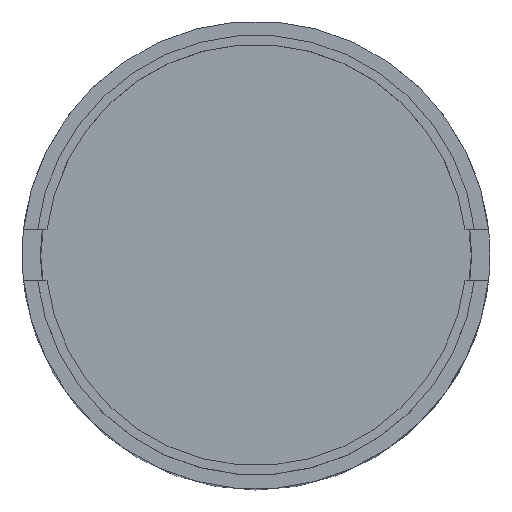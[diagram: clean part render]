
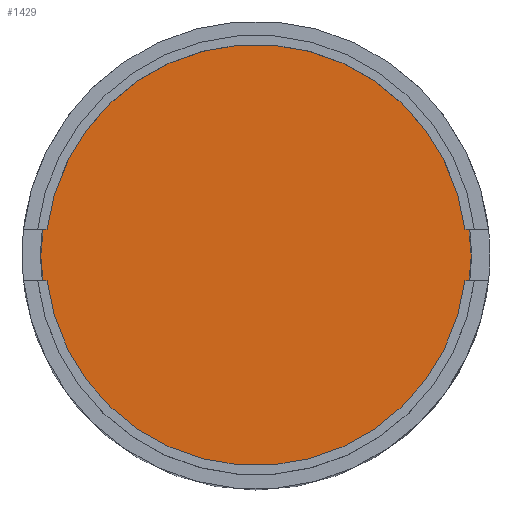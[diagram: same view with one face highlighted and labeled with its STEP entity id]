
A CAD part, top view. The second image highlights one B-rep face of the part: STEP entity #1429.
In plain terms, the highlighted planar face has unit normal (0, 0, 1).
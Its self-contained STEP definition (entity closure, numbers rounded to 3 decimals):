
#359 = CYLINDRICAL_SURFACE('',#360,0.92);
#360 = AXIS2_PLACEMENT_3D('',#361,#362,#363);
#361 = CARTESIAN_POINT('',(0.,0.,0.08));
#362 = DIRECTION('',(-0.,-0.,-1.));
#363 = DIRECTION('',(1.,0.,0.));
#1139 = VERTEX_POINT('',#1140);
#1140 = CARTESIAN_POINT('',(0.92,0.,0.08));
#1161 = EDGE_CURVE('',#1139,#1139,#1162,.T.);
#1162 = SURFACE_CURVE('',#1163,(#1168,#1175),.PCURVE_S1.);
#1163 = CIRCLE('',#1164,0.92);
#1164 = AXIS2_PLACEMENT_3D('',#1165,#1166,#1167);
#1165 = CARTESIAN_POINT('',(0.,0.,0.08));
#1166 = DIRECTION('',(0.,0.,1.));
#1167 = DIRECTION('',(1.,0.,0.));
#1168 = PCURVE('',#359,#1169);
#1169 = DEFINITIONAL_REPRESENTATION('',(#1170),#1174);
#1170 = LINE('',#1171,#1172);
#1171 = CARTESIAN_POINT('',(-0.,0.));
#1172 = VECTOR('',#1173,1.);
#1173 = DIRECTION('',(-1.,0.));
#1174 = ( GEOMETRIC_REPRESENTATION_CONTEXT(2) 
PARAMETRIC_REPRESENTATION_CONTEXT() REPRESENTATION_CONTEXT('2D SPACE',''
  ) );
#1175 = PCURVE('',#1176,#1181);
#1176 = PLANE('',#1177);
#1177 = AXIS2_PLACEMENT_3D('',#1178,#1179,#1180);
#1178 = CARTESIAN_POINT('',(0.,0.,
    0.08));
#1179 = DIRECTION('',(0.,0.,1.));
#1180 = DIRECTION('',(1.,0.,-0.));
#1181 = DEFINITIONAL_REPRESENTATION('',(#1182),#1186);
#1182 = CIRCLE('',#1183,0.92);
#1183 = AXIS2_PLACEMENT_2D('',#1184,#1185);
#1184 = CARTESIAN_POINT('',(0.,0.));
#1185 = DIRECTION('',(1.,0.));
#1186 = ( GEOMETRIC_REPRESENTATION_CONTEXT(2) 
PARAMETRIC_REPRESENTATION_CONTEXT() REPRESENTATION_CONTEXT('2D SPACE',''
  ) );
#1429 = ADVANCED_FACE('',(#1430),#1176,.T.);
#1430 = FACE_BOUND('',#1431,.T.);
#1431 = EDGE_LOOP('',(#1432));
#1432 = ORIENTED_EDGE('',*,*,#1161,.T.);
